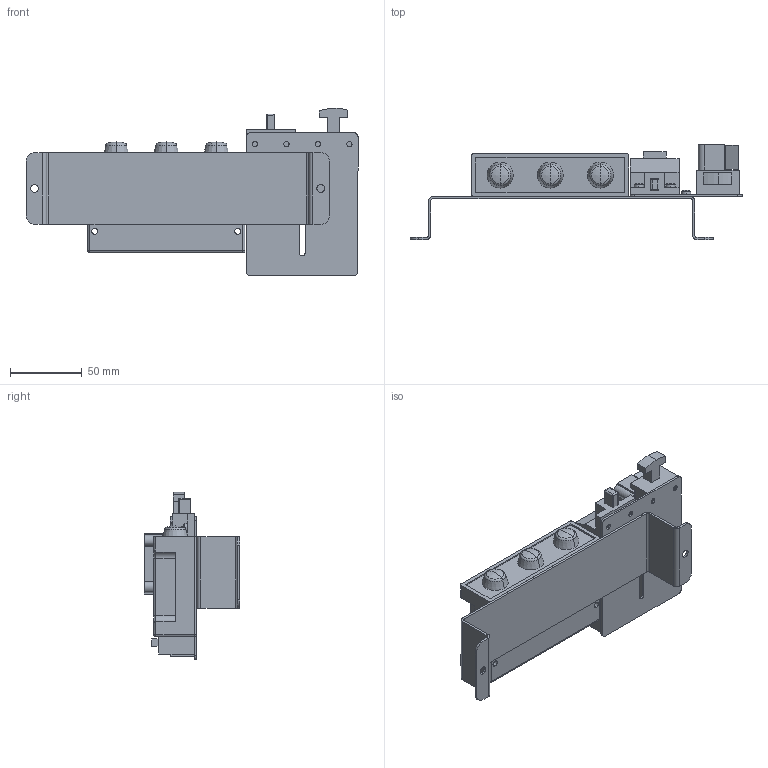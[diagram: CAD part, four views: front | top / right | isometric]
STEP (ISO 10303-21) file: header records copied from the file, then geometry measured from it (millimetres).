
FILE_DESCRIPTION (( 'STEP AP214' ), '1' );
FILE_NAME ('050ASL3FI01-10.STEP', '2019-09-16T06:44:16', ( '' ), ( '' ), 'SwSTEP 2.0', 'SolidWorks 2013', '' );
FILE_SCHEMA (( 'AUTOMOTIVE_DESIGN' ));
Length unit declared in the file: millimetre
Products named in the file (1): 050ASL3FI01-10
Bounding box: 232 x 66.5 x 116.97 mm (x, y, z)
Volume: 391450.2 mm3; surface area: 114764.8 mm2
Topology: 16 solids, 16 shells, 466 faces, 1210 edges, 778 vertices
Faces by surface type: plane 229, cylinder 105, cone 72, sphere 28, torus 28, bspline 4
Entity records: 19925 total; most frequent: CARTESIAN_POINT 2965, DIRECTION 2524, ORIENTED_EDGE 2404, EDGE_CURVE 1202, AXIS2_PLACEMENT_3D 969, VERTEX_POINT 778, LINE 586, VECTOR 586
